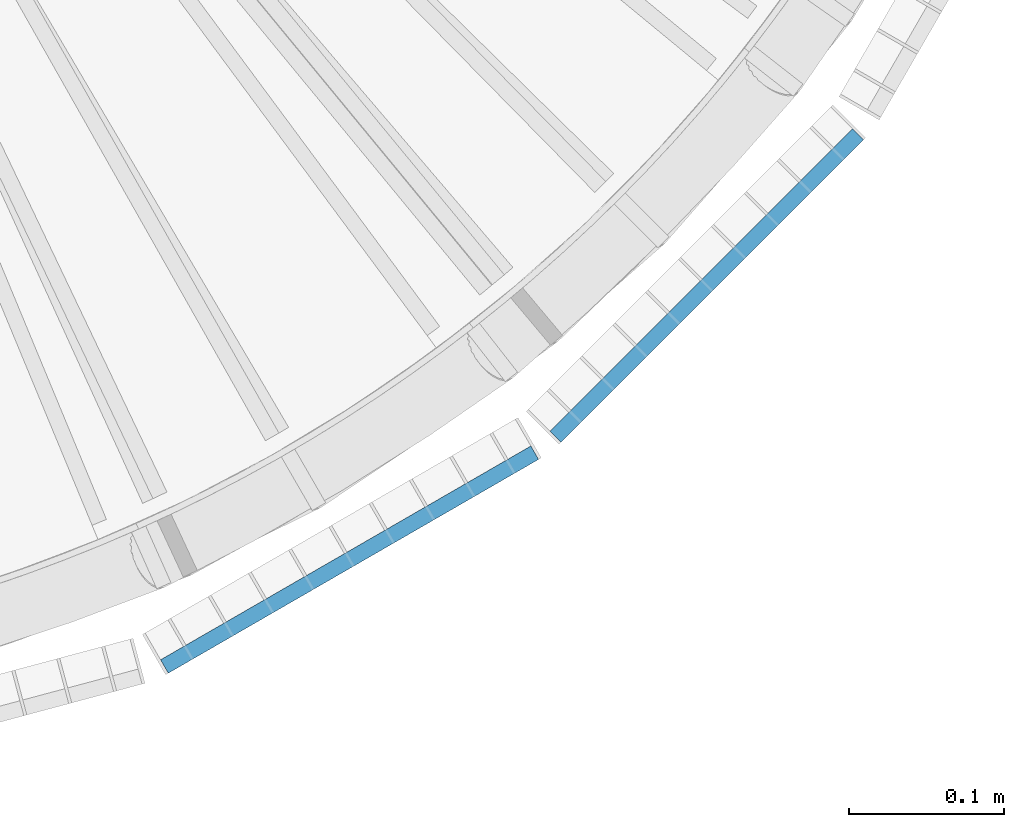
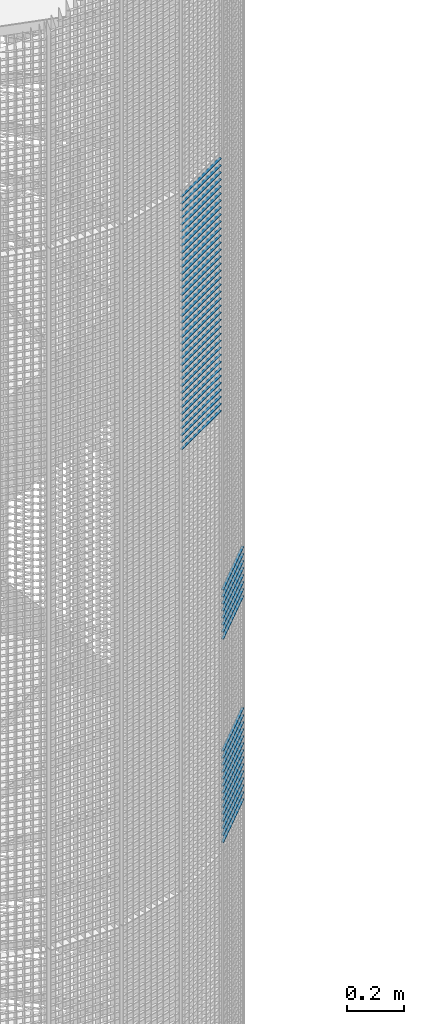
# One storey, part 251 of 1148: 59 beams, 2 elements without a shape of their own.
"""IFC2X3 building model written with IfcOpenShell, lengths in millimetres."""

from ifc_helpers import new_model, si_unit, frame, origin_with_axes, origin_2d_with_axis, place, context, subcontext, project, spatial, rectangle, extrude, material, type_object, element, aggregate, save


model = new_model("IFC2X3")

# Units and contexts
model_context = context("Model", 3, precision=1e-05, world=origin_with_axes())
body_context = subcontext(model_context, "Body", "Model", "MODEL_VIEW")
ifc_project = project(units=[si_unit("LENGTHUNIT", "METRE", prefix="MILLI"), si_unit("AREAUNIT", "SQUARE_METRE"), si_unit("VOLUMEUNIT", "CUBIC_METRE"), si_unit("MASSUNIT", "GRAM", prefix="KILO"), si_unit("TIMEUNIT", "SECOND"), si_unit("PLANEANGLEUNIT", "RADIAN"), si_unit("SOLIDANGLEUNIT", "STERADIAN"), si_unit("THERMODYNAMICTEMPERATUREUNIT", "DEGREE_CELSIUS"), si_unit("LUMINOUSINTENSITYUNIT", "LUMEN")], contexts=[model_context])

# Site, building, storey
site_placement = place(None, origin_with_axes())
site = spatial("IfcSite", under=ifc_project, at=site_placement, Name="Undefined", CompositionType="ELEMENT")
building_placement = place(site_placement, origin_with_axes())
building = spatial("IfcBuilding", under=site, at=building_placement, Name="Undefined", CompositionType="ELEMENT")
storey_placement = place(building_placement, origin_with_axes())
storey = spatial("IfcBuildingStorey", under=building, at=storey_placement, Name="Undefined", CompositionType="ELEMENT", Elevation=0.0)

# Assembly, beams
assembly_1_placement = place(storey_placement, origin_with_axes())
assembly_1 = element("IfcElementAssembly", 1, at=assembly_1_placement, inside=storey, Name="BORDURE", AssemblyPlace="NOTDEFINED", PredefinedType="NOTDEFINED")
ifc_material = material(Name="STEEL/S235JR")
beam_type = type_object("IfcBeamType", Name="PL2*10", PredefinedType="NOTDEFINED")
beam_1_placement = place(assembly_1_placement, frame((689.771348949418, -884.927168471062, 3420.0), z_axis=(0.707106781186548, -0.707106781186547, 0.0), x_axis=(0.707106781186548, 0.707106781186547, 0.0)))
beam_1 = element("IfcBeam", 2, at=beam_1_placement, type_object=beam_type, material=ifc_material, Name="ENTRETOISE", context=body_context, shape_type="SweptSolid", body=[
    extrude(rectangle(XDim=2.0, YDim=10.0, at=origin_2d_with_axis()), frame((275.999999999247, 9.09494701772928e-13, 1.53210777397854e-14), z_axis=(-1.0, 0.0, 0.0), x_axis=(0.0, -1.0, 0.0)), (0.0, 0.0, 1.0), 276.0),
])
beam_2_placement = place(assembly_1_placement, frame((689.771348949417, -884.927168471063, 3900.0), z_axis=(0.707106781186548, -0.707106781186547, 0.0), x_axis=(0.707106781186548, 0.707106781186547, 0.0)))
beam_2 = element("IfcBeam", 3, at=beam_2_placement, type_object=beam_type, material=ifc_material, Name="ENTRETOISE", context=body_context, shape_type="SweptSolid", body=[
    extrude(rectangle(XDim=2.0, YDim=10.0, at=origin_2d_with_axis()), frame((275.999999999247, 9.09494701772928e-13, 1.53210777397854e-14), z_axis=(-1.0, 0.0, 0.0), x_axis=(0.0, -1.0, 0.0)), (0.0, 0.0, 1.0), 276.0),
])
beam_3_placement = place(assembly_1_placement, frame((689.771348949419, -884.927168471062, 3390.0), z_axis=(0.707106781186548, -0.707106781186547, 0.0), x_axis=(0.707106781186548, 0.707106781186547, 0.0)))
beam_3 = element("IfcBeam", 4, at=beam_3_placement, type_object=beam_type, material=ifc_material, Name="ENTRETOISE", context=body_context, shape_type="SweptSolid", body=[
    extrude(rectangle(XDim=2.0, YDim=10.0, at=origin_2d_with_axis()), frame((275.999999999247, 9.09494701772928e-13, 1.53210777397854e-14), z_axis=(-1.0, 0.0, 0.0), x_axis=(0.0, -1.0, 0.0)), (0.0, 0.0, 1.0), 276.0),
])
beam_4_placement = place(assembly_1_placement, frame((689.771348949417, -884.927168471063, 3930.0), z_axis=(0.707106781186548, -0.707106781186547, 0.0), x_axis=(0.707106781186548, 0.707106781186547, 0.0)))
beam_4 = element("IfcBeam", 5, at=beam_4_placement, type_object=beam_type, material=ifc_material, Name="ENTRETOISE", context=body_context, shape_type="SweptSolid", body=[
    extrude(rectangle(XDim=2.0, YDim=10.0, at=origin_2d_with_axis()), frame((275.999999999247, 9.09494701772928e-13, 1.53210777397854e-14), z_axis=(-1.0, 0.0, 0.0), x_axis=(0.0, -1.0, 0.0)), (0.0, 0.0, 1.0), 276.0),
])
beam_5_placement = place(assembly_1_placement, frame((689.771348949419, -884.927168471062, 3360.0), z_axis=(0.707106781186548, -0.707106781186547, 0.0), x_axis=(0.707106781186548, 0.707106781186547, 0.0)))
beam_5 = element("IfcBeam", 6, at=beam_5_placement, type_object=beam_type, material=ifc_material, Name="ENTRETOISE", context=body_context, shape_type="SweptSolid", body=[
    extrude(rectangle(XDim=2.0, YDim=10.0, at=origin_2d_with_axis()), frame((275.999999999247, 9.09494701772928e-13, 1.53210777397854e-14), z_axis=(-1.0, 0.0, 0.0), x_axis=(0.0, -1.0, 0.0)), (0.0, 0.0, 1.0), 276.0),
])
beam_6_placement = place(assembly_1_placement, frame((689.771348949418, -884.927168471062, 3330.0), z_axis=(0.707106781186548, -0.707106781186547, 0.0), x_axis=(0.707106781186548, 0.707106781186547, 0.0)))
beam_6 = element("IfcBeam", 7, at=beam_6_placement, type_object=beam_type, material=ifc_material, Name="ENTRETOISE", context=body_context, shape_type="SweptSolid", body=[
    extrude(rectangle(XDim=2.0, YDim=10.0, at=origin_2d_with_axis()), frame((275.999999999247, 9.09494701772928e-13, 1.53210777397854e-14), z_axis=(-1.0, 0.0, 0.0), x_axis=(0.0, -1.0, 0.0)), (0.0, 0.0, 1.0), 276.0),
])
beam_7_placement = place(assembly_1_placement, frame((689.771348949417, -884.927168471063, 3960.0), z_axis=(0.707106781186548, -0.707106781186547, 0.0), x_axis=(0.707106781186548, 0.707106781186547, 0.0)))
beam_7 = element("IfcBeam", 8, at=beam_7_placement, type_object=beam_type, material=ifc_material, Name="ENTRETOISE", context=body_context, shape_type="SweptSolid", body=[
    extrude(rectangle(XDim=2.0, YDim=10.0, at=origin_2d_with_axis()), frame((275.999999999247, 9.09494701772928e-13, 1.53210777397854e-14), z_axis=(-1.0, 0.0, 0.0), x_axis=(0.0, -1.0, 0.0)), (0.0, 0.0, 1.0), 276.0),
])
beam_8_placement = place(assembly_1_placement, frame((689.771348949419, -884.927168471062, 3300.0), z_axis=(0.707106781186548, -0.707106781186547, 0.0), x_axis=(0.707106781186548, 0.707106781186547, 0.0)))
beam_8 = element("IfcBeam", 9, at=beam_8_placement, type_object=beam_type, material=ifc_material, Name="ENTRETOISE", context=body_context, shape_type="SweptSolid", body=[
    extrude(rectangle(XDim=2.0, YDim=10.0, at=origin_2d_with_axis()), frame((275.999999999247, 9.09494701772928e-13, 1.53210777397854e-14), z_axis=(-1.0, 0.0, 0.0), x_axis=(0.0, -1.0, 0.0)), (0.0, 0.0, 1.0), 276.0),
])
beam_9_placement = place(assembly_1_placement, frame((689.771348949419, -884.927168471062, 3270.0), z_axis=(0.707106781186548, -0.707106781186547, 0.0), x_axis=(0.707106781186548, 0.707106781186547, 0.0)))
beam_9 = element("IfcBeam", 10, at=beam_9_placement, type_object=beam_type, material=ifc_material, Name="ENTRETOISE", context=body_context, shape_type="SweptSolid", body=[
    extrude(rectangle(XDim=2.0, YDim=10.0, at=origin_2d_with_axis()), frame((275.999999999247, 9.09494701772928e-13, 1.53210777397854e-14), z_axis=(-1.0, 0.0, 0.0), x_axis=(0.0, -1.0, 0.0)), (0.0, 0.0, 1.0), 276.0),
])
beam_10_placement = place(assembly_1_placement, frame((689.771348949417, -884.927168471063, 3990.0), z_axis=(0.707106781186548, -0.707106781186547, 0.0), x_axis=(0.707106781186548, 0.707106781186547, 0.0)))
beam_10 = element("IfcBeam", 11, at=beam_10_placement, type_object=beam_type, material=ifc_material, Name="ENTRETOISE", context=body_context, shape_type="SweptSolid", body=[
    extrude(rectangle(XDim=2.0, YDim=10.0, at=origin_2d_with_axis()), frame((275.999999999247, 9.09494701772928e-13, 1.53210777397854e-14), z_axis=(-1.0, 0.0, 0.0), x_axis=(0.0, -1.0, 0.0)), (0.0, 0.0, 1.0), 276.0),
])
beam_11_placement = place(assembly_1_placement, frame((689.771348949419, -884.927168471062, 3240.0), z_axis=(0.707106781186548, -0.707106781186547, 0.0), x_axis=(0.707106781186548, 0.707106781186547, 0.0)))
beam_11 = element("IfcBeam", 12, at=beam_11_placement, type_object=beam_type, material=ifc_material, Name="ENTRETOISE", context=body_context, shape_type="SweptSolid", body=[
    extrude(rectangle(XDim=2.0, YDim=10.0, at=origin_2d_with_axis()), frame((275.999999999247, 9.09494701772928e-13, 1.53210777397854e-14), z_axis=(-1.0, 0.0, 0.0), x_axis=(0.0, -1.0, 0.0)), (0.0, 0.0, 1.0), 276.0),
])
beam_12_placement = place(assembly_1_placement, frame((689.771348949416, -884.927168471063, 4020.0), z_axis=(0.707106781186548, -0.707106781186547, 0.0), x_axis=(0.707106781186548, 0.707106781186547, 0.0)))
beam_12 = element("IfcBeam", 13, at=beam_12_placement, type_object=beam_type, material=ifc_material, Name="ENTRETOISE", context=body_context, shape_type="SweptSolid", body=[
    extrude(rectangle(XDim=2.0, YDim=10.0, at=origin_2d_with_axis()), frame((275.999999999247, 9.09494701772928e-13, 1.53210777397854e-14), z_axis=(-1.0, 0.0, 0.0), x_axis=(0.0, -1.0, 0.0)), (0.0, 0.0, 1.0), 276.0),
])
beam_13_placement = place(assembly_1_placement, frame((689.771348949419, -884.927168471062, 3210.0), z_axis=(0.707106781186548, -0.707106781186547, 0.0), x_axis=(0.707106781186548, 0.707106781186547, 0.0)))
beam_13 = element("IfcBeam", 14, at=beam_13_placement, type_object=beam_type, material=ifc_material, Name="ENTRETOISE", context=body_context, shape_type="SweptSolid", body=[
    extrude(rectangle(XDim=2.0, YDim=10.0, at=origin_2d_with_axis()), frame((275.999999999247, 9.09494701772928e-13, 1.53210777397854e-14), z_axis=(-1.0, 0.0, 0.0), x_axis=(0.0, -1.0, 0.0)), (0.0, 0.0, 1.0), 276.0),
])
beam_14_placement = place(assembly_1_placement, frame((689.771348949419, -884.927168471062, 3180.0), z_axis=(0.707106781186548, -0.707106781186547, 0.0), x_axis=(0.707106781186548, 0.707106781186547, 0.0)))
beam_14 = element("IfcBeam", 15, at=beam_14_placement, type_object=beam_type, material=ifc_material, Name="ENTRETOISE", context=body_context, shape_type="SweptSolid", body=[
    extrude(rectangle(XDim=2.0, YDim=10.0, at=origin_2d_with_axis()), frame((275.999999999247, 9.09494701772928e-13, 1.53210777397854e-14), z_axis=(-1.0, 0.0, 0.0), x_axis=(0.0, -1.0, 0.0)), (0.0, 0.0, 1.0), 276.0),
])
beam_15_placement = place(assembly_1_placement, frame((689.771348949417, -884.927168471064, 4050.0), z_axis=(0.707106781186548, -0.707106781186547, 0.0), x_axis=(0.707106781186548, 0.707106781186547, 0.0)))
beam_15 = element("IfcBeam", 16, at=beam_15_placement, type_object=beam_type, material=ifc_material, Name="ENTRETOISE", context=body_context, shape_type="SweptSolid", body=[
    extrude(rectangle(XDim=2.0, YDim=10.0, at=origin_2d_with_axis()), frame((275.999999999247, 9.09494701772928e-13, 1.53210777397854e-14), z_axis=(-1.0, 0.0, 0.0), x_axis=(0.0, -1.0, 0.0)), (0.0, 0.0, 1.0), 276.0),
])
beam_16_placement = place(assembly_1_placement, frame((689.771348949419, -884.927168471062, 3150.0), z_axis=(0.707106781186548, -0.707106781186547, 0.0), x_axis=(0.707106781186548, 0.707106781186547, 0.0)))
beam_16 = element("IfcBeam", 17, at=beam_16_placement, type_object=beam_type, material=ifc_material, Name="ENTRETOISE", context=body_context, shape_type="SweptSolid", body=[
    extrude(rectangle(XDim=2.0, YDim=10.0, at=origin_2d_with_axis()), frame((275.999999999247, 9.09494701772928e-13, 1.53210777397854e-14), z_axis=(-1.0, 0.0, 0.0), x_axis=(0.0, -1.0, 0.0)), (0.0, 0.0, 1.0), 276.0),
])
beam_17_placement = place(assembly_1_placement, frame((689.771348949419, -884.927168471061, 3120.0), z_axis=(0.707106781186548, -0.707106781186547, 0.0), x_axis=(0.707106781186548, 0.707106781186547, 0.0)))
beam_17 = element("IfcBeam", 18, at=beam_17_placement, type_object=beam_type, material=ifc_material, Name="ENTRETOISE", context=body_context, shape_type="SweptSolid", body=[
    extrude(rectangle(XDim=2.0, YDim=10.0, at=origin_2d_with_axis()), frame((275.999999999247, 9.09494701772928e-13, 1.53210777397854e-14), z_axis=(-1.0, 0.0, 0.0), x_axis=(0.0, -1.0, 0.0)), (0.0, 0.0, 1.0), 276.0),
])
beam_18_placement = place(assembly_1_placement, frame((689.771348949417, -884.927168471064, 4080.0), z_axis=(0.707106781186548, -0.707106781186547, 0.0), x_axis=(0.707106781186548, 0.707106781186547, 0.0)))
beam_18 = element("IfcBeam", 19, at=beam_18_placement, type_object=beam_type, material=ifc_material, Name="ENTRETOISE", context=body_context, shape_type="SweptSolid", body=[
    extrude(rectangle(XDim=2.0, YDim=10.0, at=origin_2d_with_axis()), frame((275.999999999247, 9.09494701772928e-13, 1.53210777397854e-14), z_axis=(-1.0, 0.0, 0.0), x_axis=(0.0, -1.0, 0.0)), (0.0, 0.0, 1.0), 276.0),
])
beam_19_placement = place(assembly_1_placement, frame((689.771348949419, -884.927168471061, 3090.0), z_axis=(0.707106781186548, -0.707106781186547, 0.0), x_axis=(0.707106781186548, 0.707106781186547, 0.0)))
beam_19 = element("IfcBeam", 20, at=beam_19_placement, type_object=beam_type, material=ifc_material, Name="ENTRETOISE", context=body_context, shape_type="SweptSolid", body=[
    extrude(rectangle(XDim=2.0, YDim=10.0, at=origin_2d_with_axis()), frame((275.999999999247, 9.09494701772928e-13, 1.53210777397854e-14), z_axis=(-1.0, 0.0, 0.0), x_axis=(0.0, -1.0, 0.0)), (0.0, 0.0, 1.0), 276.0),
])
beam_20_placement = place(assembly_1_placement, frame((689.771348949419, -884.927168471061, 3060.0), z_axis=(0.707106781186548, -0.707106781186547, 0.0), x_axis=(0.707106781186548, 0.707106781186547, 0.0)))
beam_20 = element("IfcBeam", 21, at=beam_20_placement, type_object=beam_type, material=ifc_material, Name="ENTRETOISE", context=body_context, shape_type="SweptSolid", body=[
    extrude(rectangle(XDim=2.0, YDim=10.0, at=origin_2d_with_axis()), frame((275.999999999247, 9.09494701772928e-13, 1.53210777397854e-14), z_axis=(-1.0, 0.0, 0.0), x_axis=(0.0, -1.0, 0.0)), (0.0, 0.0, 1.0), 276.0),
])
beam_21_placement = place(assembly_1_placement, frame((689.771348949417, -884.927168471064, 4110.0), z_axis=(0.707106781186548, -0.707106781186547, 0.0), x_axis=(0.707106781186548, 0.707106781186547, 0.0)))
beam_21 = element("IfcBeam", 22, at=beam_21_placement, type_object=beam_type, material=ifc_material, Name="ENTRETOISE", context=body_context, shape_type="SweptSolid", body=[
    extrude(rectangle(XDim=2.0, YDim=10.0, at=origin_2d_with_axis()), frame((275.999999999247, 9.09494701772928e-13, 1.53210777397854e-14), z_axis=(-1.0, 0.0, 0.0), x_axis=(0.0, -1.0, 0.0)), (0.0, 0.0, 1.0), 276.0),
])
beam_22_placement = place(assembly_1_placement, frame((689.77134894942, -884.92716847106, 3030.0), z_axis=(0.707106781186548, -0.707106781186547, 0.0), x_axis=(0.707106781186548, 0.707106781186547, 0.0)))
beam_22 = element("IfcBeam", 23, at=beam_22_placement, type_object=beam_type, material=ifc_material, Name="ENTRETOISE", context=body_context, shape_type="SweptSolid", body=[
    extrude(rectangle(XDim=2.0, YDim=10.0, at=origin_2d_with_axis()), frame((275.999999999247, 9.09494701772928e-13, 1.53210777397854e-14), z_axis=(-1.0, 0.0, 0.0), x_axis=(0.0, -1.0, 0.0)), (0.0, 0.0, 1.0), 276.0),
])
aggregate(assembly_1, [beam_1, beam_2, beam_3, beam_4, beam_5, beam_6, beam_7, beam_8, beam_9, beam_10, beam_11, beam_12, beam_13, beam_14, beam_15, beam_16, beam_17, beam_18, beam_19, beam_20, beam_21, beam_22])

assembly_2_placement = place(storey_placement, origin_with_axes())
assembly_2 = element("IfcElementAssembly", 24, at=assembly_2_placement, inside=storey, Name="BORDURE", AssemblyPlace="NOTDEFINED", PredefinedType="NOTDEFINED")
beam_23_placement = place(assembly_2_placement, frame((437.231955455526, -1033.29996828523, 5970.0), z_axis=(0.499999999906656, -0.866025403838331, 0.0), x_axis=(0.866025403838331, 0.499999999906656, 0.0)))
beam_23 = element("IfcBeam", 25, at=beam_23_placement, type_object=beam_type, material=ifc_material, Name="ENTRETOISE", context=body_context, shape_type="SweptSolid", body=[
    extrude(rectangle(XDim=2.0, YDim=10.0, at=origin_2d_with_axis()), frame((275.999999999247, 9.09494701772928e-13, 1.53210777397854e-14), z_axis=(-1.0, 0.0, 0.0), x_axis=(0.0, -1.0, 0.0)), (0.0, 0.0, 1.0), 276.0),
])
beam_24_placement = place(assembly_2_placement, frame((437.231955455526, -1033.29996828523, 5940.0), z_axis=(0.499999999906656, -0.866025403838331, 0.0), x_axis=(0.866025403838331, 0.499999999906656, 0.0)))
beam_24 = element("IfcBeam", 26, at=beam_24_placement, type_object=beam_type, material=ifc_material, Name="ENTRETOISE", context=body_context, shape_type="SweptSolid", body=[
    extrude(rectangle(XDim=2.0, YDim=10.0, at=origin_2d_with_axis()), frame((275.999999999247, 9.09494701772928e-13, 1.53210777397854e-14), z_axis=(-1.0, 0.0, 0.0), x_axis=(0.0, -1.0, 0.0)), (0.0, 0.0, 1.0), 276.0),
])
beam_25_placement = place(assembly_2_placement, frame((437.231955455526, -1033.29996828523, 5910.0), z_axis=(0.499999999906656, -0.866025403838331, 0.0), x_axis=(0.866025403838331, 0.499999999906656, 0.0)))
beam_25 = element("IfcBeam", 27, at=beam_25_placement, type_object=beam_type, material=ifc_material, Name="ENTRETOISE", context=body_context, shape_type="SweptSolid", body=[
    extrude(rectangle(XDim=2.0, YDim=10.0, at=origin_2d_with_axis()), frame((275.999999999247, 9.09494701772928e-13, 1.53210777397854e-14), z_axis=(-1.0, 0.0, 0.0), x_axis=(0.0, -1.0, 0.0)), (0.0, 0.0, 1.0), 276.0),
])
beam_26_placement = place(assembly_2_placement, frame((437.231955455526, -1033.29996828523, 5880.0), z_axis=(0.499999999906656, -0.866025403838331, 0.0), x_axis=(0.866025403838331, 0.499999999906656, 0.0)))
beam_26 = element("IfcBeam", 28, at=beam_26_placement, type_object=beam_type, material=ifc_material, Name="ENTRETOISE", context=body_context, shape_type="SweptSolid", body=[
    extrude(rectangle(XDim=2.0, YDim=10.0, at=origin_2d_with_axis()), frame((275.999999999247, 9.09494701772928e-13, 1.53210777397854e-14), z_axis=(-1.0, 0.0, 0.0), x_axis=(0.0, -1.0, 0.0)), (0.0, 0.0, 1.0), 276.0),
])
beam_27_placement = place(assembly_2_placement, frame((437.231955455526, -1033.29996828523, 5850.0), z_axis=(0.499999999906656, -0.866025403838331, 0.0), x_axis=(0.866025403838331, 0.499999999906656, 0.0)))
beam_27 = element("IfcBeam", 29, at=beam_27_placement, type_object=beam_type, material=ifc_material, Name="ENTRETOISE", context=body_context, shape_type="SweptSolid", body=[
    extrude(rectangle(XDim=2.0, YDim=10.0, at=origin_2d_with_axis()), frame((275.999999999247, 9.09494701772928e-13, 1.53210777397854e-14), z_axis=(-1.0, 0.0, 0.0), x_axis=(0.0, -1.0, 0.0)), (0.0, 0.0, 1.0), 276.0),
])
beam_28_placement = place(assembly_2_placement, frame((437.231955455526, -1033.29996828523, 5820.0), z_axis=(0.499999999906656, -0.866025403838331, 0.0), x_axis=(0.866025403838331, 0.499999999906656, 0.0)))
beam_28 = element("IfcBeam", 30, at=beam_28_placement, type_object=beam_type, material=ifc_material, Name="ENTRETOISE", context=body_context, shape_type="SweptSolid", body=[
    extrude(rectangle(XDim=2.0, YDim=10.0, at=origin_2d_with_axis()), frame((275.999999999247, 9.09494701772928e-13, 1.53210777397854e-14), z_axis=(-1.0, 0.0, 0.0), x_axis=(0.0, -1.0, 0.0)), (0.0, 0.0, 1.0), 276.0),
])
beam_29_placement = place(assembly_2_placement, frame((437.231955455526, -1033.29996828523, 5790.0), z_axis=(0.499999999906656, -0.866025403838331, 0.0), x_axis=(0.866025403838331, 0.499999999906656, 0.0)))
beam_29 = element("IfcBeam", 31, at=beam_29_placement, type_object=beam_type, material=ifc_material, Name="ENTRETOISE", context=body_context, shape_type="SweptSolid", body=[
    extrude(rectangle(XDim=2.0, YDim=10.0, at=origin_2d_with_axis()), frame((275.999999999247, 9.09494701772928e-13, 1.53210777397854e-14), z_axis=(-1.0, 0.0, 0.0), x_axis=(0.0, -1.0, 0.0)), (0.0, 0.0, 1.0), 276.0),
])
beam_30_placement = place(assembly_2_placement, frame((437.231955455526, -1033.29996828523, 5760.0), z_axis=(0.499999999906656, -0.866025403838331, 0.0), x_axis=(0.866025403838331, 0.499999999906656, 0.0)))
beam_30 = element("IfcBeam", 32, at=beam_30_placement, type_object=beam_type, material=ifc_material, Name="ENTRETOISE", context=body_context, shape_type="SweptSolid", body=[
    extrude(rectangle(XDim=2.0, YDim=10.0, at=origin_2d_with_axis()), frame((275.999999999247, 9.09494701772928e-13, 1.53210777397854e-14), z_axis=(-1.0, 0.0, 0.0), x_axis=(0.0, -1.0, 0.0)), (0.0, 0.0, 1.0), 276.0),
])
beam_31_placement = place(assembly_2_placement, frame((437.231955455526, -1033.29996828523, 5730.0), z_axis=(0.499999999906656, -0.866025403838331, 0.0), x_axis=(0.866025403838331, 0.499999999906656, 0.0)))
beam_31 = element("IfcBeam", 33, at=beam_31_placement, type_object=beam_type, material=ifc_material, Name="ENTRETOISE", context=body_context, shape_type="SweptSolid", body=[
    extrude(rectangle(XDim=2.0, YDim=10.0, at=origin_2d_with_axis()), frame((275.999999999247, 9.09494701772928e-13, 1.53210777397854e-14), z_axis=(-1.0, 0.0, 0.0), x_axis=(0.0, -1.0, 0.0)), (0.0, 0.0, 1.0), 276.0),
])
beam_32_placement = place(assembly_2_placement, frame((437.231955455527, -1033.29996828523, 5700.0), z_axis=(0.499999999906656, -0.866025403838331, 0.0), x_axis=(0.866025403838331, 0.499999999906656, 0.0)))
beam_32 = element("IfcBeam", 34, at=beam_32_placement, type_object=beam_type, material=ifc_material, Name="ENTRETOISE", context=body_context, shape_type="SweptSolid", body=[
    extrude(rectangle(XDim=2.0, YDim=10.0, at=origin_2d_with_axis()), frame((275.999999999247, 9.09494701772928e-13, 1.53210777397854e-14), z_axis=(-1.0, 0.0, 0.0), x_axis=(0.0, -1.0, 0.0)), (0.0, 0.0, 1.0), 276.0),
])
beam_33_placement = place(assembly_2_placement, frame((437.231955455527, -1033.29996828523, 5670.0), z_axis=(0.499999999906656, -0.866025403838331, 0.0), x_axis=(0.866025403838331, 0.499999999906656, 0.0)))
beam_33 = element("IfcBeam", 35, at=beam_33_placement, type_object=beam_type, material=ifc_material, Name="ENTRETOISE", context=body_context, shape_type="SweptSolid", body=[
    extrude(rectangle(XDim=2.0, YDim=10.0, at=origin_2d_with_axis()), frame((275.999999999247, 9.09494701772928e-13, 1.53210777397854e-14), z_axis=(-1.0, 0.0, 0.0), x_axis=(0.0, -1.0, 0.0)), (0.0, 0.0, 1.0), 276.0),
])
beam_34_placement = place(assembly_2_placement, frame((437.231955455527, -1033.29996828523, 5640.0), z_axis=(0.499999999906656, -0.866025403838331, 0.0), x_axis=(0.866025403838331, 0.499999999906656, 0.0)))
beam_34 = element("IfcBeam", 36, at=beam_34_placement, type_object=beam_type, material=ifc_material, Name="ENTRETOISE", context=body_context, shape_type="SweptSolid", body=[
    extrude(rectangle(XDim=2.0, YDim=10.0, at=origin_2d_with_axis()), frame((275.999999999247, 9.09494701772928e-13, 1.53210777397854e-14), z_axis=(-1.0, 0.0, 0.0), x_axis=(0.0, -1.0, 0.0)), (0.0, 0.0, 1.0), 276.0),
])
beam_35_placement = place(assembly_2_placement, frame((437.231955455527, -1033.29996828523, 5610.0), z_axis=(0.499999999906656, -0.866025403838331, 0.0), x_axis=(0.866025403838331, 0.499999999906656, 0.0)))
beam_35 = element("IfcBeam", 37, at=beam_35_placement, type_object=beam_type, material=ifc_material, Name="ENTRETOISE", context=body_context, shape_type="SweptSolid", body=[
    extrude(rectangle(XDim=2.0, YDim=10.0, at=origin_2d_with_axis()), frame((275.999999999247, 9.09494701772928e-13, 1.53210777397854e-14), z_axis=(-1.0, 0.0, 0.0), x_axis=(0.0, -1.0, 0.0)), (0.0, 0.0, 1.0), 276.0),
])
beam_36_placement = place(assembly_2_placement, frame((437.231955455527, -1033.29996828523, 5580.0), z_axis=(0.499999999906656, -0.866025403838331, 0.0), x_axis=(0.866025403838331, 0.499999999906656, 0.0)))
beam_36 = element("IfcBeam", 38, at=beam_36_placement, type_object=beam_type, material=ifc_material, Name="ENTRETOISE", context=body_context, shape_type="SweptSolid", body=[
    extrude(rectangle(XDim=2.0, YDim=10.0, at=origin_2d_with_axis()), frame((275.999999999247, 9.09494701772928e-13, 1.53210777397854e-14), z_axis=(-1.0, 0.0, 0.0), x_axis=(0.0, -1.0, 0.0)), (0.0, 0.0, 1.0), 276.0),
])
beam_37_placement = place(assembly_2_placement, frame((437.231955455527, -1033.29996828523, 5550.0), z_axis=(0.499999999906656, -0.866025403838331, 0.0), x_axis=(0.866025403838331, 0.499999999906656, 0.0)))
beam_37 = element("IfcBeam", 39, at=beam_37_placement, type_object=beam_type, material=ifc_material, Name="ENTRETOISE", context=body_context, shape_type="SweptSolid", body=[
    extrude(rectangle(XDim=2.0, YDim=10.0, at=origin_2d_with_axis()), frame((275.999999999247, 9.09494701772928e-13, 1.53210777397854e-14), z_axis=(-1.0, 0.0, 0.0), x_axis=(0.0, -1.0, 0.0)), (0.0, 0.0, 1.0), 276.0),
])
beam_38_placement = place(assembly_2_placement, frame((437.231955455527, -1033.29996828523, 5520.0), z_axis=(0.499999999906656, -0.866025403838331, 0.0), x_axis=(0.866025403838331, 0.499999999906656, 0.0)))
beam_38 = element("IfcBeam", 40, at=beam_38_placement, type_object=beam_type, material=ifc_material, Name="ENTRETOISE", context=body_context, shape_type="SweptSolid", body=[
    extrude(rectangle(XDim=2.0, YDim=10.0, at=origin_2d_with_axis()), frame((275.999999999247, 9.09494701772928e-13, 1.53210777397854e-14), z_axis=(-1.0, 0.0, 0.0), x_axis=(0.0, -1.0, 0.0)), (0.0, 0.0, 1.0), 276.0),
])
beam_39_placement = place(assembly_2_placement, frame((437.231955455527, -1033.29996828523, 5490.0), z_axis=(0.499999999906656, -0.866025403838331, 0.0), x_axis=(0.866025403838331, 0.499999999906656, 0.0)))
beam_39 = element("IfcBeam", 41, at=beam_39_placement, type_object=beam_type, material=ifc_material, Name="ENTRETOISE", context=body_context, shape_type="SweptSolid", body=[
    extrude(rectangle(XDim=2.0, YDim=10.0, at=origin_2d_with_axis()), frame((275.999999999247, 9.09494701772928e-13, 1.53210777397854e-14), z_axis=(-1.0, 0.0, 0.0), x_axis=(0.0, -1.0, 0.0)), (0.0, 0.0, 1.0), 276.0),
])
beam_40_placement = place(assembly_2_placement, frame((437.231955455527, -1033.29996828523, 5460.0), z_axis=(0.499999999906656, -0.866025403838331, 0.0), x_axis=(0.866025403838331, 0.499999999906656, 0.0)))
beam_40 = element("IfcBeam", 42, at=beam_40_placement, type_object=beam_type, material=ifc_material, Name="ENTRETOISE", context=body_context, shape_type="SweptSolid", body=[
    extrude(rectangle(XDim=2.0, YDim=10.0, at=origin_2d_with_axis()), frame((275.999999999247, 9.09494701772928e-13, 1.53210777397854e-14), z_axis=(-1.0, 0.0, 0.0), x_axis=(0.0, -1.0, 0.0)), (0.0, 0.0, 1.0), 276.0),
])
beam_41_placement = place(assembly_2_placement, frame((437.231955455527, -1033.29996828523, 5430.0), z_axis=(0.499999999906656, -0.866025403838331, 0.0), x_axis=(0.866025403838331, 0.499999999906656, 0.0)))
beam_41 = element("IfcBeam", 43, at=beam_41_placement, type_object=beam_type, material=ifc_material, Name="ENTRETOISE", context=body_context, shape_type="SweptSolid", body=[
    extrude(rectangle(XDim=2.0, YDim=10.0, at=origin_2d_with_axis()), frame((275.999999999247, 9.09494701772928e-13, 1.53210777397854e-14), z_axis=(-1.0, 0.0, 0.0), x_axis=(0.0, -1.0, 0.0)), (0.0, 0.0, 1.0), 276.0),
])
beam_42_placement = place(assembly_2_placement, frame((437.231955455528, -1033.29996828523, 5400.0), z_axis=(0.499999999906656, -0.866025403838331, 0.0), x_axis=(0.866025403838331, 0.499999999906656, 0.0)))
beam_42 = element("IfcBeam", 44, at=beam_42_placement, type_object=beam_type, material=ifc_material, Name="ENTRETOISE", context=body_context, shape_type="SweptSolid", body=[
    extrude(rectangle(XDim=2.0, YDim=10.0, at=origin_2d_with_axis()), frame((275.999999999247, 9.09494701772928e-13, 1.53210777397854e-14), z_axis=(-1.0, 0.0, 0.0), x_axis=(0.0, -1.0, 0.0)), (0.0, 0.0, 1.0), 276.0),
])
beam_43_placement = place(assembly_2_placement, frame((437.231955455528, -1033.29996828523, 5370.0), z_axis=(0.499999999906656, -0.866025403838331, 0.0), x_axis=(0.866025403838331, 0.499999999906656, 0.0)))
beam_43 = element("IfcBeam", 45, at=beam_43_placement, type_object=beam_type, material=ifc_material, Name="ENTRETOISE", context=body_context, shape_type="SweptSolid", body=[
    extrude(rectangle(XDim=2.0, YDim=10.0, at=origin_2d_with_axis()), frame((275.999999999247, 9.09494701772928e-13, 1.53210777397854e-14), z_axis=(-1.0, 0.0, 0.0), x_axis=(0.0, -1.0, 0.0)), (0.0, 0.0, 1.0), 276.0),
])
beam_44_placement = place(assembly_2_placement, frame((437.231955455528, -1033.29996828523, 5340.0), z_axis=(0.499999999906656, -0.866025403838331, 0.0), x_axis=(0.866025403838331, 0.499999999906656, 0.0)))
beam_44 = element("IfcBeam", 46, at=beam_44_placement, type_object=beam_type, material=ifc_material, Name="ENTRETOISE", context=body_context, shape_type="SweptSolid", body=[
    extrude(rectangle(XDim=2.0, YDim=10.0, at=origin_2d_with_axis()), frame((275.999999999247, 9.09494701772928e-13, 1.53210777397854e-14), z_axis=(-1.0, 0.0, 0.0), x_axis=(0.0, -1.0, 0.0)), (0.0, 0.0, 1.0), 276.0),
])
beam_45_placement = place(assembly_2_placement, frame((437.231955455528, -1033.29996828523, 5310.0), z_axis=(0.499999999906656, -0.866025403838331, 0.0), x_axis=(0.866025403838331, 0.499999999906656, 0.0)))
beam_45 = element("IfcBeam", 47, at=beam_45_placement, type_object=beam_type, material=ifc_material, Name="ENTRETOISE", context=body_context, shape_type="SweptSolid", body=[
    extrude(rectangle(XDim=2.0, YDim=10.0, at=origin_2d_with_axis()), frame((275.999999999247, 9.09494701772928e-13, 1.53210777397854e-14), z_axis=(-1.0, 0.0, 0.0), x_axis=(0.0, -1.0, 0.0)), (0.0, 0.0, 1.0), 276.0),
])
beam_46_placement = place(assembly_2_placement, frame((437.231955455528, -1033.29996828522, 5280.0), z_axis=(0.499999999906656, -0.866025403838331, 0.0), x_axis=(0.866025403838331, 0.499999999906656, 0.0)))
beam_46 = element("IfcBeam", 48, at=beam_46_placement, type_object=beam_type, material=ifc_material, Name="ENTRETOISE", context=body_context, shape_type="SweptSolid", body=[
    extrude(rectangle(XDim=2.0, YDim=10.0, at=origin_2d_with_axis()), frame((275.999999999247, 9.09494701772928e-13, 1.53210777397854e-14), z_axis=(-1.0, 0.0, 0.0), x_axis=(0.0, -1.0, 0.0)), (0.0, 0.0, 1.0), 276.0),
])
beam_47_placement = place(assembly_2_placement, frame((437.231955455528, -1033.29996828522, 5250.0), z_axis=(0.499999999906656, -0.866025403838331, 0.0), x_axis=(0.866025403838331, 0.499999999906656, 0.0)))
beam_47 = element("IfcBeam", 49, at=beam_47_placement, type_object=beam_type, material=ifc_material, Name="ENTRETOISE", context=body_context, shape_type="SweptSolid", body=[
    extrude(rectangle(XDim=2.0, YDim=10.0, at=origin_2d_with_axis()), frame((275.999999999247, 9.09494701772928e-13, 1.53210777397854e-14), z_axis=(-1.0, 0.0, 0.0), x_axis=(0.0, -1.0, 0.0)), (0.0, 0.0, 1.0), 276.0),
])
beam_48_placement = place(assembly_2_placement, frame((437.231955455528, -1033.29996828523, 5220.0), z_axis=(0.499999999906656, -0.866025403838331, 0.0), x_axis=(0.866025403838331, 0.499999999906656, 0.0)))
beam_48 = element("IfcBeam", 50, at=beam_48_placement, type_object=beam_type, material=ifc_material, Name="ENTRETOISE", context=body_context, shape_type="SweptSolid", body=[
    extrude(rectangle(XDim=2.0, YDim=10.0, at=origin_2d_with_axis()), frame((275.999999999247, 9.09494701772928e-13, 1.53210777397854e-14), z_axis=(-1.0, 0.0, 0.0), x_axis=(0.0, -1.0, 0.0)), (0.0, 0.0, 1.0), 276.0),
])
beam_49_placement = place(assembly_2_placement, frame((437.231955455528, -1033.29996828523, 5190.0), z_axis=(0.499999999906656, -0.866025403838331, 0.0), x_axis=(0.866025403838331, 0.499999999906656, 0.0)))
beam_49 = element("IfcBeam", 51, at=beam_49_placement, type_object=beam_type, material=ifc_material, Name="ENTRETOISE", context=body_context, shape_type="SweptSolid", body=[
    extrude(rectangle(XDim=2.0, YDim=10.0, at=origin_2d_with_axis()), frame((275.999999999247, 9.09494701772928e-13, 1.53210777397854e-14), z_axis=(-1.0, 0.0, 0.0), x_axis=(0.0, -1.0, 0.0)), (0.0, 0.0, 1.0), 276.0),
])
beam_50_placement = place(assembly_2_placement, frame((437.231955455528, -1033.29996828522, 5160.0), z_axis=(0.499999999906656, -0.866025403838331, 0.0), x_axis=(0.866025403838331, 0.499999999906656, 0.0)))
beam_50 = element("IfcBeam", 52, at=beam_50_placement, type_object=beam_type, material=ifc_material, Name="ENTRETOISE", context=body_context, shape_type="SweptSolid", body=[
    extrude(rectangle(XDim=2.0, YDim=10.0, at=origin_2d_with_axis()), frame((275.999999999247, 9.09494701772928e-13, 1.53210777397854e-14), z_axis=(-1.0, 0.0, 0.0), x_axis=(0.0, -1.0, 0.0)), (0.0, 0.0, 1.0), 276.0),
])
beam_51_placement = place(assembly_2_placement, frame((437.231955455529, -1033.29996828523, 5130.0), z_axis=(0.499999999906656, -0.866025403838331, 0.0), x_axis=(0.866025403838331, 0.499999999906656, 0.0)))
beam_51 = element("IfcBeam", 53, at=beam_51_placement, type_object=beam_type, material=ifc_material, Name="ENTRETOISE", context=body_context, shape_type="SweptSolid", body=[
    extrude(rectangle(XDim=2.0, YDim=10.0, at=origin_2d_with_axis()), frame((275.999999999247, 9.09494701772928e-13, 1.53210777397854e-14), z_axis=(-1.0, 0.0, 0.0), x_axis=(0.0, -1.0, 0.0)), (0.0, 0.0, 1.0), 276.0),
])
beam_52_placement = place(assembly_2_placement, frame((437.231955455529, -1033.29996828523, 5100.0), z_axis=(0.499999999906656, -0.866025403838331, 0.0), x_axis=(0.866025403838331, 0.499999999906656, 0.0)))
beam_52 = element("IfcBeam", 54, at=beam_52_placement, type_object=beam_type, material=ifc_material, Name="ENTRETOISE", context=body_context, shape_type="SweptSolid", body=[
    extrude(rectangle(XDim=2.0, YDim=10.0, at=origin_2d_with_axis()), frame((275.999999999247, 9.09494701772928e-13, 1.53210777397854e-14), z_axis=(-1.0, 0.0, 0.0), x_axis=(0.0, -1.0, 0.0)), (0.0, 0.0, 1.0), 276.0),
])
beam_53_placement = place(assembly_2_placement, frame((437.231955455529, -1033.29996828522, 5070.0), z_axis=(0.499999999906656, -0.866025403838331, 0.0), x_axis=(0.866025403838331, 0.499999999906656, 0.0)))
beam_53 = element("IfcBeam", 55, at=beam_53_placement, type_object=beam_type, material=ifc_material, Name="ENTRETOISE", context=body_context, shape_type="SweptSolid", body=[
    extrude(rectangle(XDim=2.0, YDim=10.0, at=origin_2d_with_axis()), frame((275.999999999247, 9.09494701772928e-13, 1.53210777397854e-14), z_axis=(-1.0, 0.0, 0.0), x_axis=(0.0, -1.0, 0.0)), (0.0, 0.0, 1.0), 276.0),
])
beam_54_placement = place(assembly_2_placement, frame((437.231955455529, -1033.29996828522, 5040.0), z_axis=(0.499999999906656, -0.866025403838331, 0.0), x_axis=(0.866025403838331, 0.499999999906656, 0.0)))
beam_54 = element("IfcBeam", 56, at=beam_54_placement, type_object=beam_type, material=ifc_material, Name="ENTRETOISE", context=body_context, shape_type="SweptSolid", body=[
    extrude(rectangle(XDim=2.0, YDim=10.0, at=origin_2d_with_axis()), frame((275.999999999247, 9.09494701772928e-13, 1.53210777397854e-14), z_axis=(-1.0, 0.0, 0.0), x_axis=(0.0, -1.0, 0.0)), (0.0, 0.0, 1.0), 276.0),
])
beam_55_placement = place(assembly_2_placement, frame((437.231955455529, -1033.29996828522, 5010.0), z_axis=(0.499999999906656, -0.866025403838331, 0.0), x_axis=(0.866025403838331, 0.499999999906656, 0.0)))
beam_55 = element("IfcBeam", 57, at=beam_55_placement, type_object=beam_type, material=ifc_material, Name="ENTRETOISE", context=body_context, shape_type="SweptSolid", body=[
    extrude(rectangle(XDim=2.0, YDim=10.0, at=origin_2d_with_axis()), frame((275.999999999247, 9.09494701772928e-13, 1.53210777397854e-14), z_axis=(-1.0, 0.0, 0.0), x_axis=(0.0, -1.0, 0.0)), (0.0, 0.0, 1.0), 276.0),
])
beam_56_placement = place(assembly_2_placement, frame((437.231955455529, -1033.29996828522, 4980.0), z_axis=(0.499999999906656, -0.866025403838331, 0.0), x_axis=(0.866025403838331, 0.499999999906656, 0.0)))
beam_56 = element("IfcBeam", 58, at=beam_56_placement, type_object=beam_type, material=ifc_material, Name="ENTRETOISE", context=body_context, shape_type="SweptSolid", body=[
    extrude(rectangle(XDim=2.0, YDim=10.0, at=origin_2d_with_axis()), frame((275.999999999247, 9.09494701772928e-13, 1.53210777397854e-14), z_axis=(-1.0, 0.0, 0.0), x_axis=(0.0, -1.0, 0.0)), (0.0, 0.0, 1.0), 276.0),
])
beam_57_placement = place(assembly_2_placement, frame((437.231955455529, -1033.29996828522, 4950.0), z_axis=(0.499999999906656, -0.866025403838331, 0.0), x_axis=(0.866025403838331, 0.499999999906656, 0.0)))
beam_57 = element("IfcBeam", 59, at=beam_57_placement, type_object=beam_type, material=ifc_material, Name="ENTRETOISE", context=body_context, shape_type="SweptSolid", body=[
    extrude(rectangle(XDim=2.0, YDim=10.0, at=origin_2d_with_axis()), frame((275.999999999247, 9.09494701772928e-13, 1.53210777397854e-14), z_axis=(-1.0, 0.0, 0.0), x_axis=(0.0, -1.0, 0.0)), (0.0, 0.0, 1.0), 276.0),
])
beam_58_placement = place(assembly_2_placement, frame((437.231955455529, -1033.29996828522, 4920.0), z_axis=(0.499999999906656, -0.866025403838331, 0.0), x_axis=(0.866025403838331, 0.499999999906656, 0.0)))
beam_58 = element("IfcBeam", 60, at=beam_58_placement, type_object=beam_type, material=ifc_material, Name="ENTRETOISE", context=body_context, shape_type="SweptSolid", body=[
    extrude(rectangle(XDim=2.0, YDim=10.0, at=origin_2d_with_axis()), frame((275.999999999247, 9.09494701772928e-13, 1.53210777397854e-14), z_axis=(-1.0, 0.0, 0.0), x_axis=(0.0, -1.0, 0.0)), (0.0, 0.0, 1.0), 276.0),
])
beam_59_placement = place(assembly_2_placement, frame((437.231955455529, -1033.29996828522, 4890.0), z_axis=(0.499999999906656, -0.866025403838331, 0.0), x_axis=(0.866025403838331, 0.499999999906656, 0.0)))
beam_59 = element("IfcBeam", 61, at=beam_59_placement, type_object=beam_type, material=ifc_material, Name="ENTRETOISE", context=body_context, shape_type="SweptSolid", body=[
    extrude(rectangle(XDim=2.0, YDim=10.0, at=origin_2d_with_axis()), frame((275.999999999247, 9.09494701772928e-13, 1.53210777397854e-14), z_axis=(-1.0, 0.0, 0.0), x_axis=(0.0, -1.0, 0.0)), (0.0, 0.0, 1.0), 276.0),
])
aggregate(assembly_2, [beam_23, beam_24, beam_25, beam_26, beam_27, beam_28, beam_29, beam_30, beam_31, beam_32, beam_33, beam_34, beam_35, beam_36, beam_37, beam_38, beam_39, beam_40, beam_41, beam_42, beam_43, beam_44, beam_45, beam_46, beam_47, beam_48, beam_49, beam_50, beam_51, beam_52, beam_53, beam_54, beam_55, beam_56, beam_57, beam_58, beam_59])

save(model, "model.ifc")
